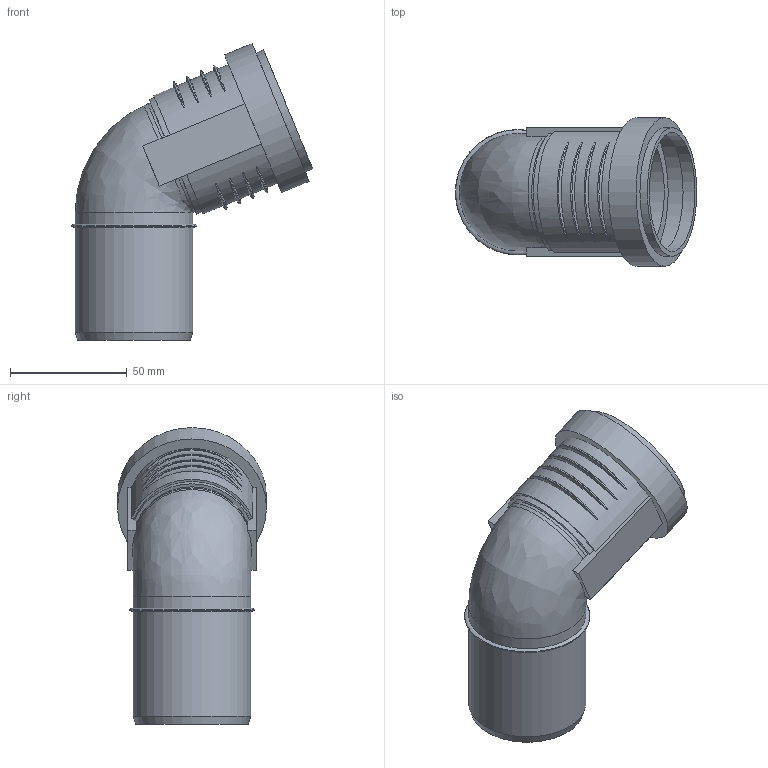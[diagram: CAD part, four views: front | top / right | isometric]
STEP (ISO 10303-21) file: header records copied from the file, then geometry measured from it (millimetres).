
FILE_DESCRIPTION(/* description */ (''),/* implementation_level */ '2;1');
FILE_NAME(/* name */ 'Z:\Geberit\Export\NewStep\390223.stp',/* time_stamp */ '2014-04-02T08:10:09+02:00',/* author */ ('ML'),/* organization */ (''),/* preprocessor_version */ 'ST-DEVELOPER v15.2',/* originating_system */ 'Autodesk Inventor 2014',/* authorisation */ '');
FILE_SCHEMA (('AUTOMOTIVE_DESIGN { 1 0 10303 214 3 1 1 }'));
Length unit declared in the file: millimetre
Products named in the file (3): 861324; 861401; 390223
Bounding box: 103.25 x 63.7 x 126.89 mm (x, y, z)
Volume: 51302.9 mm3; surface area: 52069.4 mm2
Topology: 2 solids, 2 shells, 68 faces, 162 edges, 109 vertices
Faces by surface type: torus 28, plane 19, cylinder 18, cone 2, bspline 1
Full cylindrical faces by diameter (mm): 46.15 x3, 50.15 x4, 51 x2, 55 x1, 59.7 x1, 63.7 x1
Entity records: 2630 total; most frequent: CARTESIAN_POINT 1054, DIRECTION 290, ORIENTED_EDGE 278, EDGE_CURVE 139, AXIS2_PLACEMENT_3D 127, VERTEX_POINT 106, EDGE_LOOP 103, STYLED_ITEM 70
